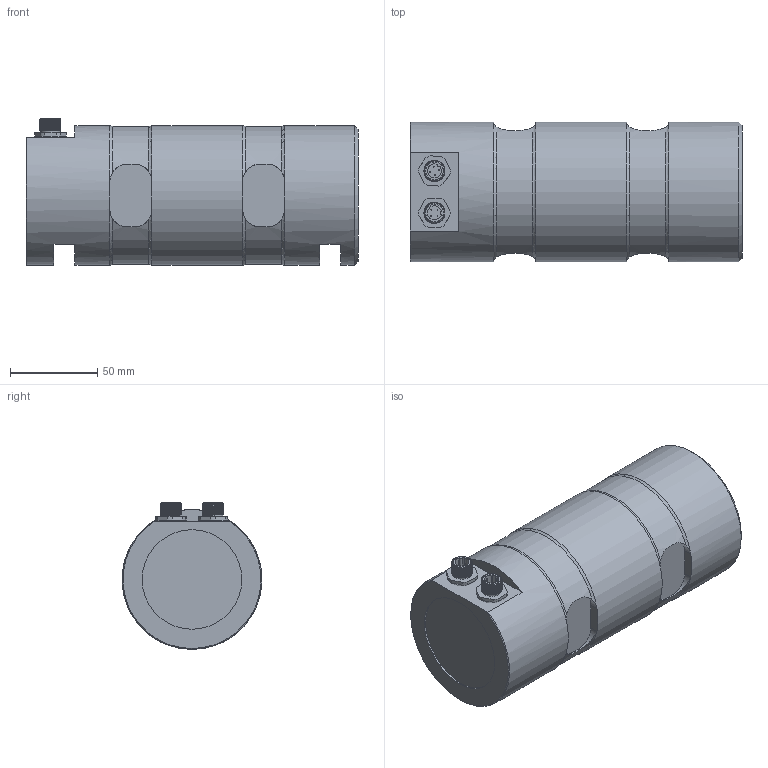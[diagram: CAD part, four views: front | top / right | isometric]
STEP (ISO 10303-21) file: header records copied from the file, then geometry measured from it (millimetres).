
FILE_DESCRIPTION(/* description */ ('Alibre Inc.'),/* implementation_level */ '2;1');
FILE_NAME(/* name */ 'export0',/* time_stamp */ '2016-04-08T10:19:48+02:00',/* author */ (''),/* organization */ (''),/* preprocessor_version */ 'ST-DEVELOPER v14',/* originating_system */ 'Alibre',/* authorisation */ '');
FILE_SCHEMA (('CONFIG_CONTROL_DESIGN'));
Length unit declared in the file: centimetre
Products named in the file (6): ID_1; ID_2; ID_3; ID_4
Bounding box: 190 x 80 x 83.97 mm (x, y, z)
Volume: 911852.2 mm3; surface area: 69311.3 mm2
Topology: 15 solids, 15 shells, 271 faces, 595 edges, 364 vertices
Faces by surface type: plane 113, cylinder 92, bspline 46, cone 10, torus 10
Full cylindrical faces by diameter (mm): 0.5 x16, 8 x4, 10 x6, 11.5 x2, 13 x2, 14.376 x2, 57 x1, 80 x3
Entity records: 16161 total; most frequent: CARTESIAN_POINT 12474, ORIENTED_EDGE 692, DIRECTION 463, EDGE_CURVE 341, VERTEX_POINT 223, FACE_BOUND 213, EDGE_LOOP 212, AXIS2_PLACEMENT_3D 207
